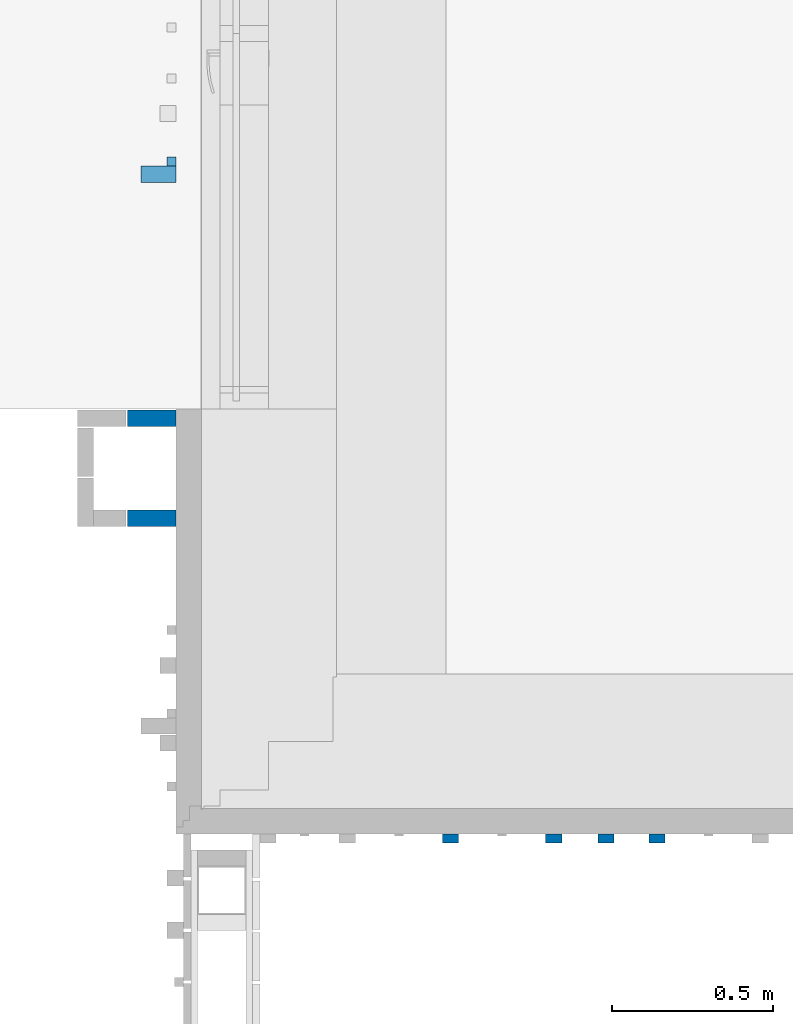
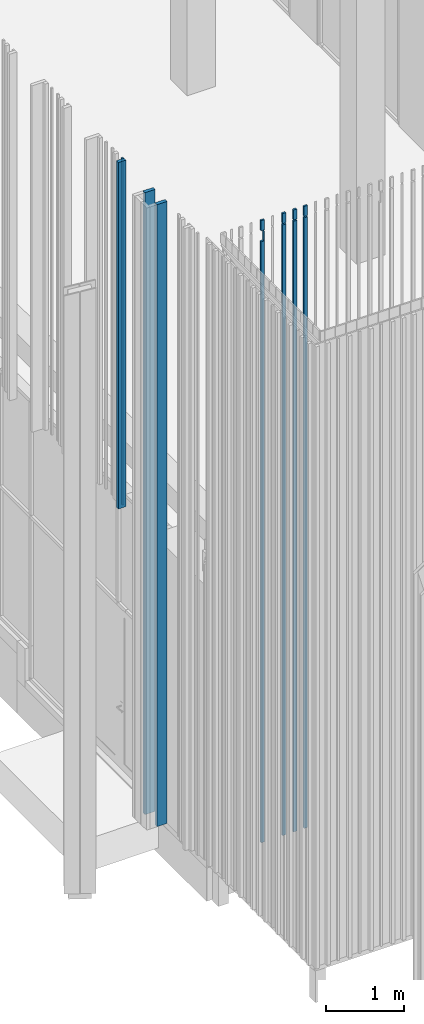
# One storey, part 89 of 390: 8 walls.
"""IFC2X3 building model written with IfcOpenShell, lengths in millimetres."""

from ifc_helpers import new_model, entity, si_unit, converted_unit, derived_unit, money_unit, direction, frame, origin_with_axes, place, context, subcontext, project, spatial, faceted_brep, material, material_list, type_object, element, save


model = new_model("IFC2X3")

# Units and contexts
model_context = context("Model", 3, precision=1e-05, world=origin_with_axes(), true_north=direction((0.0, 1.0)))
body_context = subcontext(model_context, "Body", "Model", "MODEL_VIEW")
ifc_project = project(units=[si_unit("LENGTHUNIT", "METRE", prefix="MILLI"), si_unit("AREAUNIT", "SQUARE_METRE"), si_unit("VOLUMEUNIT", "CUBIC_METRE"), converted_unit("PLANEANGLEUNIT", "DEGREE", entity("IfcPlaneAngleMeasure", 0.0174532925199), si_unit("PLANEANGLEUNIT", "RADIAN"), dimensions=[0, 0, 0, 0, 0, 0, 0]), si_unit("SOLIDANGLEUNIT", "STERADIAN"), money_unit("EUR"), converted_unit("TIMEUNIT", "Year", entity("IfcTimeMeasure", 31556926.0), si_unit("TIMEUNIT", "SECOND"), dimensions=[0, 0, 1, 0, 0, 0, 0]), si_unit("MASSUNIT", "GRAM", prefix="KILO"), si_unit("THERMODYNAMICTEMPERATUREUNIT", "DEGREE_CELSIUS"), si_unit("LUMINOUSINTENSITYUNIT", "LUMEN"), si_unit("ENERGYUNIT", "JOULE", prefix="MEGA"), derived_unit("THERMALCONDUCTANCEUNIT", [(si_unit("POWERUNIT", "WATT"), 1), (si_unit("LENGTHUNIT", "METRE"), -1), (si_unit("THERMODYNAMICTEMPERATUREUNIT", "KELVIN"), -1)]), derived_unit("SPECIFICHEATCAPACITYUNIT", [(si_unit("ENERGYUNIT", "JOULE"), 1), (si_unit("MASSUNIT", "GRAM", prefix="KILO"), -1), (si_unit("THERMODYNAMICTEMPERATUREUNIT", "KELVIN"), -1)]), derived_unit("MASSDENSITYUNIT", [(si_unit("MASSUNIT", "GRAM", prefix="KILO"), 1), (si_unit("VOLUMEUNIT", "CUBIC_METRE"), -1)])], contexts=[model_context])

# Site, building, storey
site_placement = place(None, origin_with_axes())
site = spatial("IfcSite", under=ifc_project, at=site_placement, Name="Site", CompositionType="ELEMENT")
building_placement = place(site_placement, origin_with_axes())
building = spatial("IfcBuilding", under=site, at=building_placement, Name="Building", CompositionType="ELEMENT")
storey_placement = place(building_placement, origin_with_axes())
storey = spatial("IfcBuildingStorey", under=building, at=storey_placement, Name="1 korrus", CompositionType="ELEMENT", Elevation=0.0)

# Walls
ifc_material = material(Name="Site specified")
wall_type_1 = type_object("IfcWallType", Name="Puitfassaadi ribistik", PredefinedType="NOTDEFINED")
wall_1_placement = place(storey_placement, frame((122398.999997, 47347.0000095, 4424.99966101), z_axis=(0.0, 0.0, 1.0), x_axis=(0.0, 1.0, 0.0)))
element("IfcWall", 1, at=wall_1_placement, inside=storey, type_object=wall_type_1, material=ifc_material, Name="Site specified", context=body_context, shape_type="Brep", body=[
    faceted_brep([(14.0, 14.0, 5440.00033899), (14.0, 14.0, 0.0), (-14.0, 14.0, 0.0), (-14.0, 14.0, 5440.00033899), (14.0, -14.0, 5440.00033899), (14.0, -14.0, 0.0), (-14.0, -14.0, 0.0), (-14.0, -14.0, 5440.00033899)], [[[0, 1, 2, 3]], [[4, 5, 1, 0]], [[2, 1, 5, 6]], [[3, 2, 6, 7]], [[4, 0, 3, 7]], [[7, 6, 5, 4]]]),
])
wall_2_placement = place(storey_placement, frame((122358.499997, 47308.0000095, 4424.99966101), z_axis=(0.0, 0.0, 1.0), x_axis=(0.0, 1.0, 0.0)))
element("IfcWall", 2, at=wall_2_placement, inside=storey, type_object=wall_type_1, material=ifc_material, Name="Site specified", context=body_context, shape_type="Brep", body=[
    faceted_brep([(25.0, 54.5, 5440.00033899), (25.0, 54.5, 0.0), (-25.0, 54.5, 0.0), (-25.0, 54.5, 5440.00033899), (25.0, -54.5, 5440.00033899), (25.0, -54.5, 0.0), (-25.0, -54.5, 0.0), (-25.0, -54.5, 5440.00033899)], [[[0, 1, 2, 3]], [[4, 5, 1, 0]], [[2, 1, 5, 6]], [[3, 2, 6, 7]], [[4, 0, 3, 7]], [[7, 6, 5, 4]]]),
])
ifc_material_list = material_list([ifc_material, ifc_material])
wall_3_placement = place(storey_placement, frame((123745.999994, 45260.9998835, 100.000000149), z_axis=(0.0, 0.0, 1.0), x_axis=(-1.0, 0.0, 0.0)))
element("IfcWall", 3, at=wall_3_placement, inside=storey, type_object=wall_type_1, material=ifc_material_list, Name="Site specified", context=body_context, shape_type="Brep", body=[
    faceted_brep([(25.0, -2.00002862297, -3.12924797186e-06), (25.0, -2.00012493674, 9591.91726162), (-25.0, -2.00012493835, 9591.91726162), (-25.0, -2.00002862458, -3.12924797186e-06), (25.0, 25.0, 0.0), (25.0, 25.0, 9586.1782079), (-25.0, 25.0, 9586.1782079), (-25.0, 25.0, 0.0)], [[[0, 1, 2, 3]], [[4, 5, 1, 0]], [[5, 6, 2, 1]], [[3, 2, 6, 7]], [[0, 3, 7, 4]], [[7, 6, 5, 4]]]),
    faceted_brep([(-25.0, 25.0, 9764.99999985), (-25.0, 25.0, 9607.64736039), (-25.0, -2.00012493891, 9613.38641411), (-25.0, -2.00012493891, 9764.99999985), (25.0, 25.0, 9764.99999985), (25.0, 25.0, 9607.64736039), (25.0, -2.0001249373, 9613.38641411), (25.0, -2.0001249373, 9764.99999985)], [[[0, 1, 2, 3]], [[4, 5, 1, 0]], [[5, 6, 2, 1]], [[3, 2, 6, 7]], [[3, 7, 4, 0]], [[7, 6, 5, 4]]]),
])
wall_4_placement = place(storey_placement, frame((123263.999994, 45260.999876, 100.000000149), z_axis=(0.0, 0.0, 1.0), x_axis=(-1.0, 0.0, 0.0)))
element("IfcWall", 4, at=wall_4_placement, inside=storey, type_object=wall_type_1, material=ifc_material_list, Name="Site specified", context=body_context, shape_type="Brep", body=[
    faceted_brep([(25.0, -2.00003612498, -3.12924797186e-06), (25.0, -2.00013243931, 9438.5673503), (-15.9999665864, -2.00013244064, 9438.5673503), (-15.9999665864, -1.99988960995, 9591.91840404), (-25.0, -2.00013244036, 9591.91726162), (-25.0, -2.0000361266, -3.12924797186e-06), (25.0, 25.0, 0.0), (25.0, 25.0, 9432.82828103), (-15.9999665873, 25.0, 9432.82828103), (-15.9999665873, 25.0002399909, 9586.17933537), (-25.0, 25.0, 9586.1782063), (-25.0, 25.0, 0.0)], [[[0, 1, 2, 3, 4, 5]], [[6, 7, 1, 0]], [[8, 2, 1, 7]], [[8, 9, 3, 2]], [[4, 3, 9, 10]], [[11, 5, 4, 10]], [[6, 0, 5, 11]], [[9, 8, 7, 6, 11, 10]]]),
    faceted_brep([(-25.0, 25.0, 9764.99999985), (-25.0, 25.0, 9607.6473588), (-25.0, -2.00013244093, 9613.38641411), (-25.0, -2.00013244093, 9764.99999985), (25.0, 25.0, 9764.99999985), (25.0, 25.0, 9607.6473588), (25.0, -2.00013243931, 9613.38641411), (25.0, -2.00013243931, 9764.99999985)], [[[0, 1, 2, 3]], [[4, 5, 1, 0]], [[5, 6, 2, 1]], [[3, 2, 6, 7]], [[3, 7, 4, 0]], [[7, 6, 5, 4]]]),
])
wall_5_placement = place(storey_placement, frame((123583.999994, 45260.9998835, 100.000000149), z_axis=(0.0, 0.0, 1.0), x_axis=(-1.0, 0.0, 0.0)))
element("IfcWall", 5, at=wall_5_placement, inside=storey, type_object=wall_type_1, material=ifc_material_list, Name="Site specified", context=body_context, shape_type="Brep", body=[
    faceted_brep([(25.0, -2.00002862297, -3.12924797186e-06), (25.0, -2.00012493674, 9591.91726162), (-25.0, -2.00012493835, 9591.91726162), (-25.0, -2.00002862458, -3.12924797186e-06), (25.0, 25.0, 0.0), (25.0, 25.0, 9586.1782079), (-25.0, 25.0, 9586.1782079), (-25.0, 25.0, 0.0)], [[[0, 1, 2, 3]], [[4, 5, 1, 0]], [[5, 6, 2, 1]], [[3, 2, 6, 7]], [[0, 3, 7, 4]], [[7, 6, 5, 4]]]),
    faceted_brep([(-25.0, 25.0, 9764.99999985), (-25.0, 25.0, 9607.64736039), (-25.0, -2.00012493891, 9613.38641411), (-25.0, -2.00012493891, 9764.99999985), (25.0, 25.0, 9764.99999985), (25.0, 25.0, 9607.64736039), (25.0, -2.0001249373, 9613.38641411), (25.0, -2.0001249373, 9764.99999985)], [[[0, 1, 2, 3]], [[4, 5, 1, 0]], [[5, 6, 2, 1]], [[3, 2, 6, 7]], [[3, 7, 4, 0]], [[7, 6, 5, 4]]]),
])
wall_6_placement = place(storey_placement, frame((123903.999994, 45260.9999634, 100.000000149), z_axis=(0.0, 0.0, 1.0), x_axis=(-1.0, 0.0, 0.0)))
element("IfcWall", 6, at=wall_6_placement, inside=storey, type_object=wall_type_1, material=ifc_material_list, Name="Site specified", context=body_context, shape_type="Brep", body=[
    faceted_brep([(25.0, -1.99994869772, -3.12924797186e-06), (25.0, -2.00004501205, 9438.5673503), (24.0000334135, -2.00004501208, 9438.5673503), (24.0000334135, -1.99980218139, 9591.91840404), (-25.0, -2.0000450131, 9591.91726162), (-25.0, -1.99994869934, -3.12924797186e-06), (25.0, 25.0, 0.0), (25.0, 25.0, 9432.82829961), (24.0000334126, 25.0, 9432.82829961), (24.0000334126, 25.0002399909, 9586.17935395), (-25.0, 25.0, 9586.17822489), (-25.0, 25.0, 0.0)], [[[0, 1, 2, 3, 4, 5]], [[6, 7, 1, 0]], [[8, 2, 1, 7]], [[8, 9, 3, 2]], [[4, 3, 9, 10]], [[11, 5, 4, 10]], [[6, 0, 5, 11]], [[9, 8, 7, 6, 11, 10]]]),
    faceted_brep([(-25.0, 25.0, 9764.99999985), (-25.0, 25.0, 9607.64737738), (-25.0, -2.00004501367, 9613.38641411), (-25.0, -2.00004501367, 9764.99999985), (25.0, 25.0, 9764.99999985), (25.0, 25.0, 9607.64737738), (25.0, -2.00004501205, 9613.38641411), (25.0, -2.00004501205, 9764.99999985)], [[[0, 1, 2, 3]], [[4, 5, 1, 0]], [[5, 6, 2, 1]], [[3, 2, 6, 7]], [[3, 7, 4, 0]], [[7, 6, 5, 4]]]),
])
wall_type_2 = type_object("IfcWallType", Name="Puitfassaadi ribisik", PredefinedType="NOTDEFINED")
for number, where, z_axis, x_axis, name in (
    (7, (122337.999993, 46552.0000242, 100.000000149), (0.0, 0.0, 1.0), (1.92421249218e-07, 1.0, 0.0), "Site specified"),
    (8, (122338.000002, 46241.9999918, 100.000000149), (0.0, 0.0, 1.0), (1.92421249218e-07, 1.0, 0.0), "Site specified"),
):
    element("IfcWall", number, at=place(storey_placement, frame(where, z_axis=z_axis, x_axis=x_axis)), inside=storey, type_object=wall_type_2, material=ifc_material, Name=name, context=body_context, shape_type="Brep", body=[
        faceted_brep([(-25.0, -75.0, 9764.99999475), (-25.0, -75.0, 0.0), (25.0, -75.0, 0.0), (25.0, -75.0, 9764.99999475), (-25.0, 75.0, 9764.99999475), (-25.0, 75.0, 0.0), (25.0, 75.0, 0.0), (25.0, 75.0, 9764.99999475)], [[[0, 1, 2, 3]], [[4, 5, 1, 0]], [[2, 1, 5, 6]], [[3, 2, 6, 7]], [[4, 0, 3, 7]], [[7, 6, 5, 4]]]),
    ])

save(model, "model.ifc")
